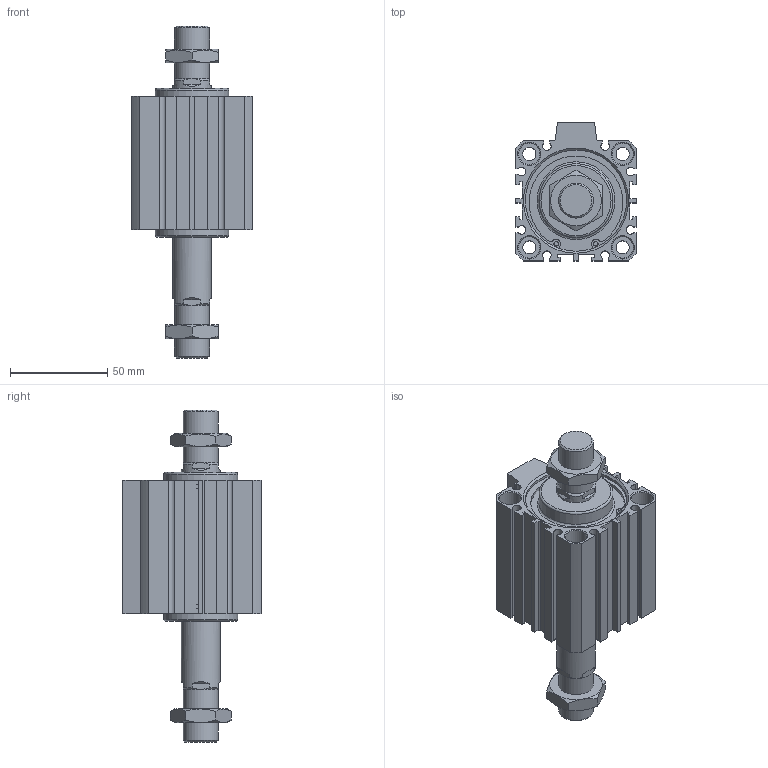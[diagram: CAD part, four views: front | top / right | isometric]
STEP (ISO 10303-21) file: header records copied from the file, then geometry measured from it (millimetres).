
FILE_DESCRIPTION((''),'2;1');
FILE_NAME('I:\3D電子目錄\氣缸\JDD\JDD-BS\JDD50-BS\JDD50x30-BS.stp','2007-02-27T15:06:04',('662F206'),(''),'Autodesk Inventor 10','Autodesk Inventor 10','');
FILE_SCHEMA(('AUTOMOTIVE_DESIGN { 1 0 10303 214 1 1 1 1 }'));
Length unit declared in the file: millimetre
Products named in the file (3): JDD50-BS; R 形環 52
Assembly tree (3 placements, depth 2):
  JDD50-BS
    JDD50-BS
    R 形環 52  x2
Bounding box: 62 x 71 x 170.6 mm (x, y, z)
Volume: 269210.2 mm3; surface area: 56511.1 mm2
Topology: 3 solids, 3 shells, 231 faces, 561 edges, 362 vertices
Faces by surface type: plane 133, cylinder 56, cone 38, bspline 2, torus 2
Full cylindrical faces by diameter (mm): 2.3 x4, 2.7 x2, 6.8 x4, 11 x8, 18 x4, 20 x2, 38 x2, 52 x4, 55 x2
Entity records: 6180 total; most frequent: CARTESIAN_POINT 1222, DIRECTION 1017, ORIENTED_EDGE 942, EDGE_CURVE 471, AXIS2_PLACEMENT_3D 375, VERTEX_POINT 334, EDGE_LOOP 309, VECTOR 267
